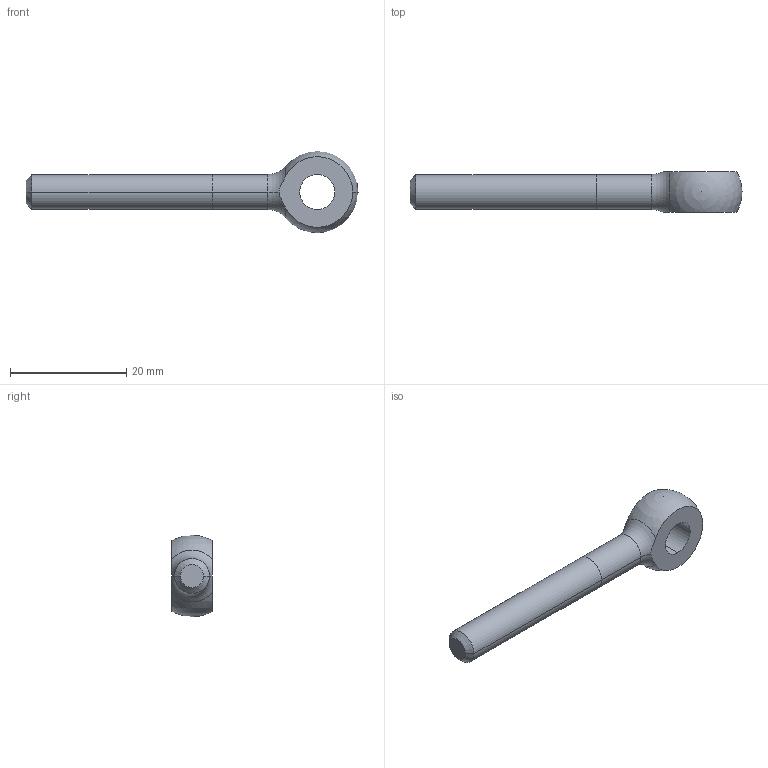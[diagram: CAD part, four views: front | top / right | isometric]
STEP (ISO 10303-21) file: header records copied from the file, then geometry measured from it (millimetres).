
FILE_DESCRIPTION (( 'STEP AP214' ), '1' );
FILE_NAME ('444-M6-50-NI.step', '2024-10-15T06:37:28', ( '' ), ( '' ), 'SwSTEP 2.0', 'SolidWorks 2022', '' );
FILE_SCHEMA (( 'AUTOMOTIVE_DESIGN' ));
Length unit declared in the file: millimetre
Products named in the file (1): 444-M6-50-NI
Bounding box: 57 x 7 x 14 mm (x, y, z)
Volume: 2018.1 mm3; surface area: 1420.3 mm2
Topology: 1 solids, 1 shells, 16 faces, 42 edges, 27 vertices
Faces by surface type: cylinder 6, plane 4, torus 2, cone 2, sphere 2
Entity records: 544 total; most frequent: CARTESIAN_POINT 108, DIRECTION 90, ORIENTED_EDGE 72, AXIS2_PLACEMENT_3D 41, EDGE_CURVE 36, CIRCLE 24, VERTEX_POINT 23, EDGE_LOOP 19
